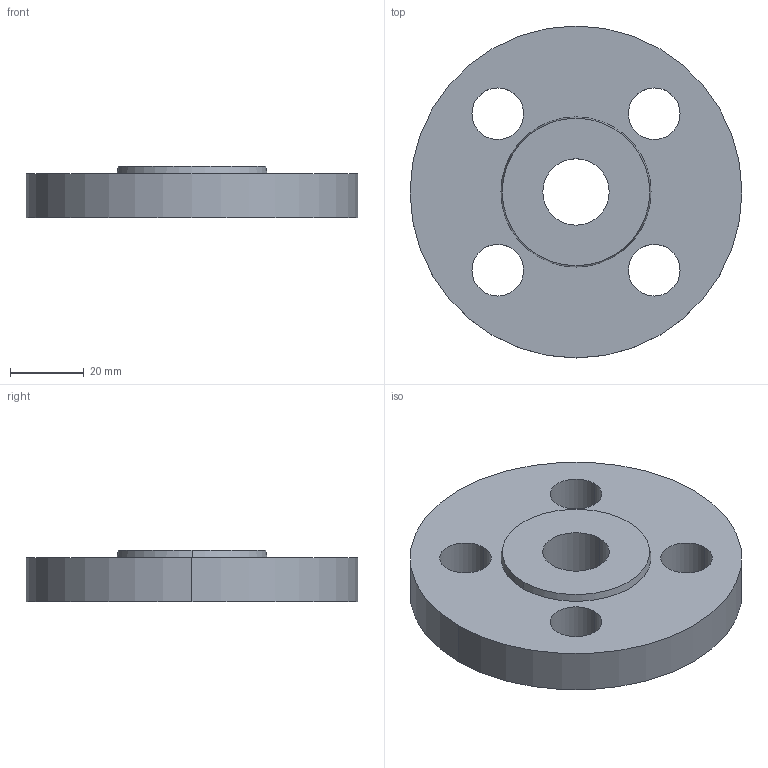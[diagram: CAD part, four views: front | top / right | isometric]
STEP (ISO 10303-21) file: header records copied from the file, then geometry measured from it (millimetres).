
FILE_DESCRIPTION (( 'STEP AP214' ), '1' );
FILE_NAME ('PN40 DN10 Type 01 - Type B Face.STEP', '2018-12-29T05:27:28', ( '' ), ( '' ), 'SwSTEP 2.0', 'SolidWorks 2019', '' );
FILE_SCHEMA (( 'AUTOMOTIVE_DESIGN' ));
Length unit declared in the file: millimetre
Products named in the file (1): PN40 DN10 Type 01 - Type B Face
Bounding box: 90 x 90 x 14 mm (x, y, z)
Volume: 67947 mm3; surface area: 17491.5 mm2
Topology: 1 solids, 1 shells, 17 faces, 42 edges, 28 vertices
Faces by surface type: cylinder 12, plane 3, cone 2
Entity records: 578 total; most frequent: DIRECTION 106, CARTESIAN_POINT 88, ORIENTED_EDGE 84, AXIS2_PLACEMENT_3D 46, EDGE_CURVE 42, CIRCLE 28, VERTEX_POINT 28, EDGE_LOOP 28
